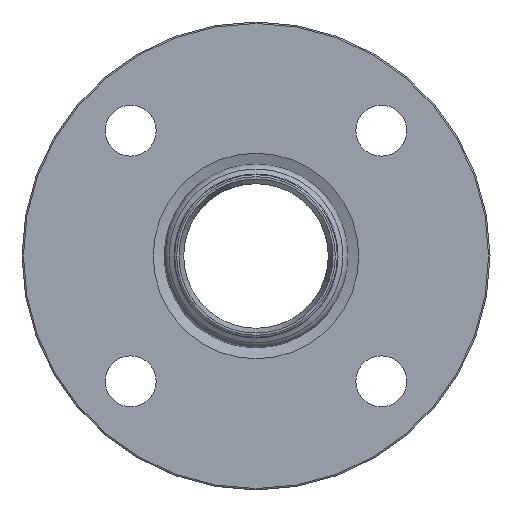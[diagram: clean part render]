
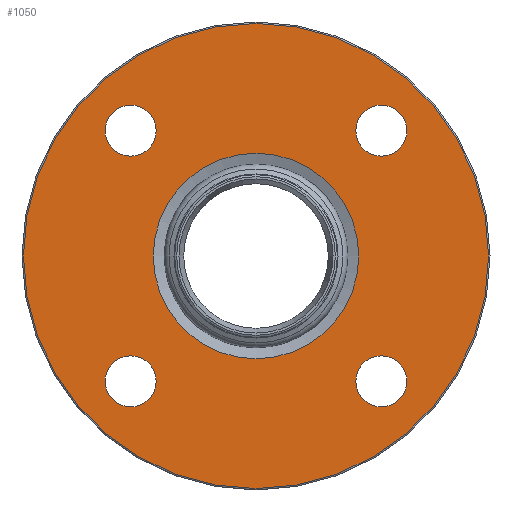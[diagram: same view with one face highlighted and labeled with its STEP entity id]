
A CAD part, left-side view. The second image highlights one B-rep face of the part: STEP entity #1050.
In plain terms, the highlighted planar face has unit normal (-1, 0, 0) as drawn and (0, 0, 1) by its records, which use the part's own axes.
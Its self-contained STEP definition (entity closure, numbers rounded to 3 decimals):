
#791=CARTESIAN_POINT('',(0.0,-36.221,0.));
#792=VERTEX_POINT('',#791);
#793=CARTESIAN_POINT('',(0.0,0.0,0.0));
#794=DIRECTION('',(0.0,0.0,-1.0));
#795=DIRECTION('',(0.0,-1.0,0.0));
#796=AXIS2_PLACEMENT_3D('',#793,#794,#795);
#797=CIRCLE('',#796,36.221);
#798=EDGE_CURVE('',#792,#792,#797,.T.);
#980=CARTESIAN_POINT('',(82.0,0.,0.0));
#981=VERTEX_POINT('',#980);
#982=CARTESIAN_POINT('',(0.0,0.0,0.0));
#983=DIRECTION('',(0.0,0.0,-1.0));
#984=DIRECTION('',(-1.0,0.0,0.0));
#985=AXIS2_PLACEMENT_3D('',#982,#983,#984);
#986=CIRCLE('',#985,82.0);
#987=EDGE_CURVE('',#981,#981,#986,.T.);
#995=CARTESIAN_POINT('',(0.0,0.0,0.0));
#996=DIRECTION('',(0.0,0.0,-1.0));
#997=DIRECTION('',(-1.0,0.0,0.0));
#998=AXIS2_PLACEMENT_3D('',#995,#996,#997);
#999=PLANE('',#998);
#1000=ORIENTED_EDGE('',*,*,#987,.F.);
#1001=EDGE_LOOP('',(#1000));
#1002=FACE_OUTER_BOUND('',#1001,.T.);
#1003=ORIENTED_EDGE('',*,*,#798,.T.);
#1004=EDGE_LOOP('',(#1003));
#1005=FACE_BOUND('',#1004,.T.);
#1006=CARTESIAN_POINT('',(-35.194,44.194,0.0));
#1007=VERTEX_POINT('',#1006);
#1008=CARTESIAN_POINT('',(-44.194,44.194,0.0));
#1009=DIRECTION('',(0.0,0.0,-1.0));
#1010=DIRECTION('',(-1.0,0.0,0.0));
#1011=AXIS2_PLACEMENT_3D('',#1008,#1009,#1010);
#1012=CIRCLE('',#1011,9.0);
#1013=EDGE_CURVE('',#1007,#1007,#1012,.T.);
#1014=ORIENTED_EDGE('',*,*,#1013,.T.);
#1015=EDGE_LOOP('',(#1014));
#1016=FACE_BOUND('',#1015,.T.);
#1017=CARTESIAN_POINT('',(53.194,44.194,0.0));
#1018=VERTEX_POINT('',#1017);
#1019=CARTESIAN_POINT('',(44.194,44.194,0.0));
#1020=DIRECTION('',(0.0,0.0,-1.0));
#1021=DIRECTION('',(-1.0,0.0,0.0));
#1022=AXIS2_PLACEMENT_3D('',#1019,#1020,#1021);
#1023=CIRCLE('',#1022,9.0);
#1024=EDGE_CURVE('',#1018,#1018,#1023,.T.);
#1025=ORIENTED_EDGE('',*,*,#1024,.T.);
#1026=EDGE_LOOP('',(#1025));
#1027=FACE_BOUND('',#1026,.T.);
#1028=CARTESIAN_POINT('',(53.194,-44.194,0.0));
#1029=VERTEX_POINT('',#1028);
#1030=CARTESIAN_POINT('',(44.194,-44.194,0.0));
#1031=DIRECTION('',(0.0,0.0,-1.0));
#1032=DIRECTION('',(-1.0,0.0,0.0));
#1033=AXIS2_PLACEMENT_3D('',#1030,#1031,#1032);
#1034=CIRCLE('',#1033,9.0);
#1035=EDGE_CURVE('',#1029,#1029,#1034,.T.);
#1036=ORIENTED_EDGE('',*,*,#1035,.T.);
#1037=EDGE_LOOP('',(#1036));
#1038=FACE_BOUND('',#1037,.T.);
#1039=CARTESIAN_POINT('',(-35.194,-44.194,0.0));
#1040=VERTEX_POINT('',#1039);
#1041=CARTESIAN_POINT('',(-44.194,-44.194,0.0));
#1042=DIRECTION('',(0.0,0.0,-1.0));
#1043=DIRECTION('',(-1.0,0.0,0.0));
#1044=AXIS2_PLACEMENT_3D('',#1041,#1042,#1043);
#1045=CIRCLE('',#1044,9.0);
#1046=EDGE_CURVE('',#1040,#1040,#1045,.T.);
#1047=ORIENTED_EDGE('',*,*,#1046,.T.);
#1048=EDGE_LOOP('',(#1047));
#1049=FACE_BOUND('',#1048,.T.);
#1050=ADVANCED_FACE('',(#1002,#1005,#1016,#1027,#1038,#1049),#999,.F.);
